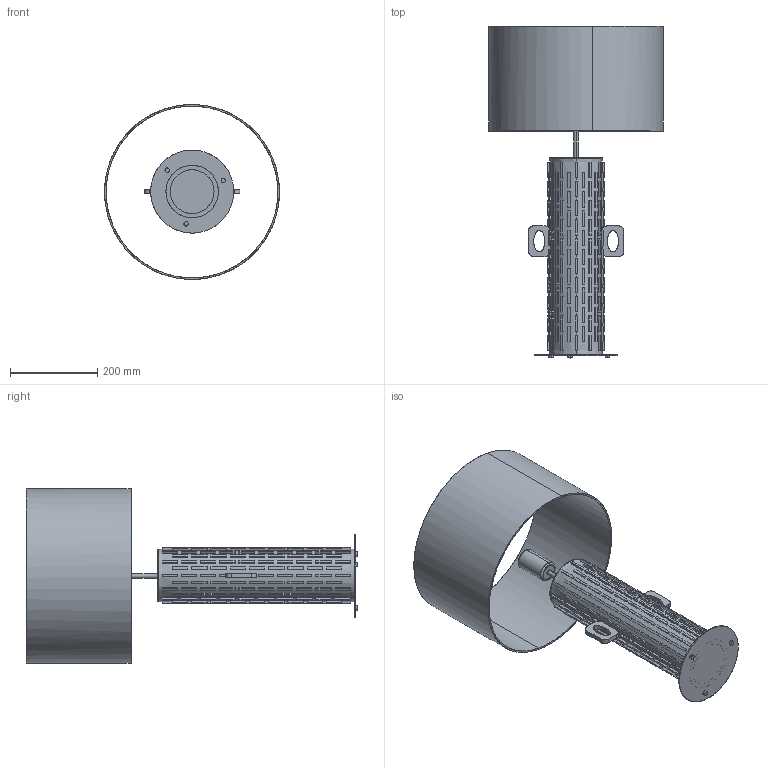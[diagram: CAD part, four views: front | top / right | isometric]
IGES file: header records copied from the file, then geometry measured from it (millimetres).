
Start section: SolidWorks IGES file using analytic representation for surfaces
Global section: file name: C:\Users\adrian\Desktop\Nueva Colección Enero 2026\3D\drive-download-20251230T145340Z-1-001\NAC147\NAC147.STEP.IGS; native system: SolidWorks 2023; preprocessor: SolidWorks 2023; author: adrian; date: 251230.165944; units: millimetre
Bounding box: 399.99 x 758.88 x 399.99 mm (x, y, z)
Surface area: 1164264.4 mm2 (no closed solid volume)
Topology: 0 solids, 0 shells, 1236 faces, 7384 edges, 7384 vertices
Faces by surface type: bspline 1199, revolution 37
